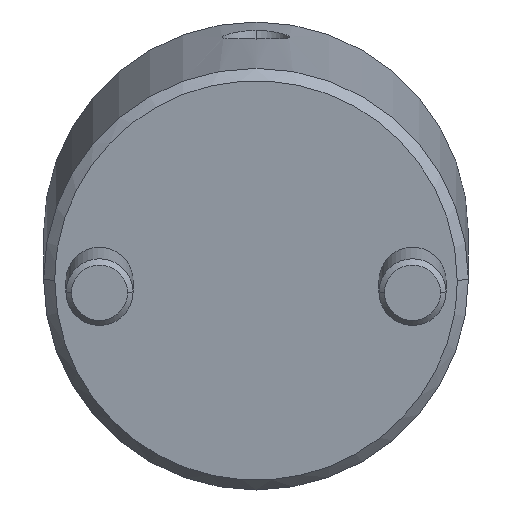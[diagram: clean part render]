
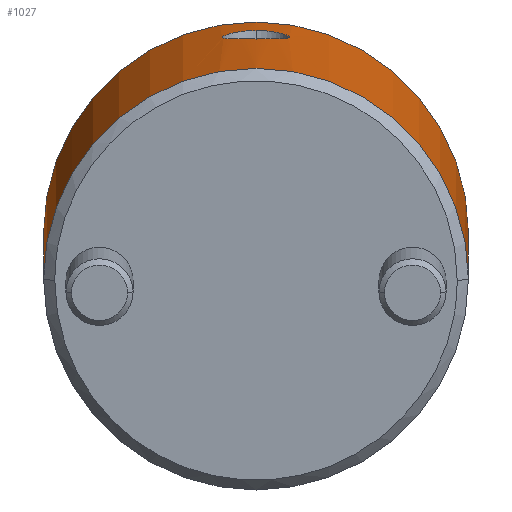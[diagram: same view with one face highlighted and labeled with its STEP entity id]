
A CAD part, front view. The second image highlights one B-rep face of the part: STEP entity #1027.
In plain terms, the highlighted cylindrical face has radius 19 mm (diameter 38 mm), a partial arc.
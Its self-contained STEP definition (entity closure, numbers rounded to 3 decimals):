
#763=CARTESIAN_POINT('Vertex',(0.,19.,1.)) ;
#766=CARTESIAN_POINT('Axis2P3D Location',(0.,0.,1.)) ;
#770=CARTESIAN_POINT('Vertex',(0.,-19.,1.)) ;
#922=CARTESIAN_POINT('Axis2P3D Location',(0.,0.,-1.8)) ;
#927=CARTESIAN_POINT('Line Origine',(0.,19.,-1.8)) ;
#931=CARTESIAN_POINT('Vertex',(0.,19.,35.)) ;
#934=CARTESIAN_POINT('Axis2P3D Location',(0.,0.,35.)) ;
#938=CARTESIAN_POINT('Vertex',(0.,-19.,35.)) ;
#941=CARTESIAN_POINT('Line Origine',(0.,-19.,-1.8)) ;
#953=CARTESIAN_POINT('Control Point',(19.,0.,28.749)) ;
#954=CARTESIAN_POINT('Control Point',(19.,0.083,28.749)) ;
#955=CARTESIAN_POINT('Control Point',(19.,0.165,28.746)) ;
#956=CARTESIAN_POINT('Control Point',(18.999,0.248,28.74)) ;
#957=CARTESIAN_POINT('Control Point',(18.995,0.495,28.714)) ;
#958=CARTESIAN_POINT('Control Point',(18.987,0.739,28.661)) ;
#959=CARTESIAN_POINT('Control Point',(18.979,0.904,28.613)) ;
#960=CARTESIAN_POINT('Control Point',(18.962,1.22,28.496)) ;
#961=CARTESIAN_POINT('Control Point',(18.94,1.514,28.337)) ;
#962=CARTESIAN_POINT('Control Point',(18.928,1.657,28.245)) ;
#963=CARTESIAN_POINT('Control Point',(18.903,1.931,28.043)) ;
#964=CARTESIAN_POINT('Control Point',(18.876,2.173,27.806)) ;
#965=CARTESIAN_POINT('Control Point',(18.862,2.286,27.678)) ;
#966=CARTESIAN_POINT('Control Point',(18.836,2.494,27.407)) ;
#967=CARTESIAN_POINT('Control Point',(18.813,2.664,27.109)) ;
#968=CARTESIAN_POINT('Control Point',(18.802,2.738,26.955)) ;
#969=CARTESIAN_POINT('Control Point',(18.783,2.864,26.639)) ;
#970=CARTESIAN_POINT('Control Point',(18.77,2.946,26.305)) ;
#971=CARTESIAN_POINT('Control Point',(18.766,2.976,26.134)) ;
#972=CARTESIAN_POINT('Control Point',(18.76,3.011,25.795)) ;
#973=CARTESIAN_POINT('Control Point',(18.762,2.998,25.456)) ;
#974=CARTESIAN_POINT('Control Point',(18.765,2.979,25.287)) ;
#975=CARTESIAN_POINT('Control Point',(18.777,2.904,24.869)) ;
#976=CARTESIAN_POINT('Control Point',(18.799,2.759,24.473)) ;
#977=CARTESIAN_POINT('Control Point',(18.816,2.645,24.245)) ;
#978=CARTESIAN_POINT('Control Point',(18.859,2.328,23.745)) ;
#979=CARTESIAN_POINT('Control Point',(18.907,1.9,23.338)) ;
#980=CARTESIAN_POINT('Control Point',(18.934,1.62,23.139)) ;
#981=CARTESIAN_POINT('Control Point',(18.971,1.134,22.89)) ;
#982=CARTESIAN_POINT('Control Point',(18.992,0.605,22.755)) ;
#983=CARTESIAN_POINT('Control Point',(18.997,0.404,22.72)) ;
#984=CARTESIAN_POINT('Control Point',(19.,0.203,22.704)) ;
#985=CARTESIAN_POINT('Control Point',(19.,0.,22.704)) ;
#986=CARTESIAN_POINT('Vertex',(19.,0.,28.749)) ;
#988=CARTESIAN_POINT('Vertex',(19.,0.,22.704)) ;
#992=CARTESIAN_POINT('Control Point',(19.,0.,22.704)) ;
#993=CARTESIAN_POINT('Control Point',(19.,-0.168,22.704)) ;
#994=CARTESIAN_POINT('Control Point',(18.998,-0.336,22.715)) ;
#995=CARTESIAN_POINT('Control Point',(18.994,-0.503,22.739)) ;
#996=CARTESIAN_POINT('Control Point',(18.983,-0.835,22.809)) ;
#997=CARTESIAN_POINT('Control Point',(18.966,-1.155,22.925)) ;
#998=CARTESIAN_POINT('Control Point',(18.956,-1.309,22.993)) ;
#999=CARTESIAN_POINT('Control Point',(18.933,-1.607,23.152)) ;
#1000=CARTESIAN_POINT('Control Point',(18.907,-1.881,23.351)) ;
#1001=CARTESIAN_POINT('Control Point',(18.894,-2.01,23.46)) ;
#1002=CARTESIAN_POINT('Control Point',(18.867,-2.252,23.694)) ;
#1003=CARTESIAN_POINT('Control Point',(18.841,-2.457,23.961)) ;
#1004=CARTESIAN_POINT('Control Point',(18.828,-2.551,24.102)) ;
#1005=CARTESIAN_POINT('Control Point',(18.799,-2.759,24.466)) ;
#1006=CARTESIAN_POINT('Control Point',(18.778,-2.9,24.863)) ;
#1007=CARTESIAN_POINT('Control Point',(18.768,-2.959,25.114)) ;
#1008=CARTESIAN_POINT('Control Point',(18.759,-3.015,25.535)) ;
#1009=CARTESIAN_POINT('Control Point',(18.762,-2.996,25.959)) ;
#1010=CARTESIAN_POINT('Control Point',(18.765,-2.976,26.13)) ;
#1011=CARTESIAN_POINT('Control Point',(18.778,-2.898,26.553)) ;
#1012=CARTESIAN_POINT('Control Point',(18.801,-2.748,26.955)) ;
#1013=CARTESIAN_POINT('Control Point',(18.817,-2.632,27.187)) ;
#1014=CARTESIAN_POINT('Control Point',(18.861,-2.311,27.694)) ;
#1015=CARTESIAN_POINT('Control Point',(18.909,-1.881,28.106)) ;
#1016=CARTESIAN_POINT('Control Point',(18.936,-1.604,28.308)) ;
#1017=CARTESIAN_POINT('Control Point',(18.971,-1.123,28.56)) ;
#1018=CARTESIAN_POINT('Control Point',(18.992,-0.597,28.698)) ;
#1019=CARTESIAN_POINT('Control Point',(18.997,-0.399,28.732)) ;
#1020=CARTESIAN_POINT('Control Point',(19.,-0.2,28.749)) ;
#1021=CARTESIAN_POINT('Control Point',(19.,0.,28.749)) ;
#767=DIRECTION('Axis2P3D Direction',(0.,0.,1.)) ;
#923=DIRECTION('Axis2P3D Direction',(0.,-0.,1.)) ;
#924=DIRECTION('Axis2P3D XDirection',(0.,-1.,0.)) ;
#928=DIRECTION('Vector Direction',(0.,0.,1.)) ;
#935=DIRECTION('Axis2P3D Direction',(0.,-0.,1.)) ;
#942=DIRECTION('Vector Direction',(0.,0.,1.)) ;
#768=AXIS2_PLACEMENT_3D('Circle Axis2P3D',#766,#767,$) ;
#925=AXIS2_PLACEMENT_3D('Cylinder Axis2P3D',#922,#923,#924) ;
#936=AXIS2_PLACEMENT_3D('Circle Axis2P3D',#934,#935,$) ;
#947=ORIENTED_EDGE('',*,*,#933,.F.) ;
#948=ORIENTED_EDGE('',*,*,#940,.T.) ;
#949=ORIENTED_EDGE('',*,*,#945,.T.) ;
#950=ORIENTED_EDGE('',*,*,#772,.F.) ;
#1024=ORIENTED_EDGE('',*,*,#990,.T.) ;
#1025=ORIENTED_EDGE('',*,*,#1022,.T.) ;
#1026=FACE_BOUND('',#1023,.T.) ;
#929=VECTOR('Line Direction',#928,1.) ;
#943=VECTOR('Line Direction',#942,1.) ;
#1027=ADVANCED_FACE('MANIFOLD_SOLID_BREP #1116',(#951,#1026),#926,.T.) ;
#952=B_SPLINE_CURVE_WITH_KNOTS('',5,(#953,#954,#955,#956,#957,#958,#959,#960,#961,#962,#963,#964,#965,#966,#967,#968,#969,#970,#971,#972,#973,#974,#975,#976,#977,#978,#979,#980,#981,#982,#983,#984,#985),.UNSPECIFIED.,.F.,.U.,(6,3,3,3,3,3,3,3,3,3,6),(0.,0.591,1.779,2.983,4.199,5.399,6.591,7.777,9.567,11.962,13.402),.UNSPECIFIED.) ;
#991=B_SPLINE_CURVE_WITH_KNOTS('',5,(#992,#993,#994,#995,#996,#997,#998,#999,#1000,#1001,#1002,#1003,#1004,#1005,#1006,#1007,#1008,#1009,#1010,#1011,#1012,#1013,#1014,#1015,#1016,#1017,#1018,#1019,#1020,#1021),.UNSPECIFIED.,.F.,.U.,(6,3,3,3,3,3,3,3,3,6),(0.,1.203,2.402,3.608,4.808,6.587,7.776,9.58,11.983,13.405),.UNSPECIFIED.) ;
#769=CIRCLE('generated circle',#768,19.) ;
#937=CIRCLE('generated circle',#936,19.) ;
#926=CYLINDRICAL_SURFACE('generated cylinder',#925,19.) ;
#772=EDGE_CURVE('',#764,#771,#769,.F.) ;
#933=EDGE_CURVE('',#932,#764,#930,.F.) ;
#940=EDGE_CURVE('',#932,#939,#937,.F.) ;
#945=EDGE_CURVE('',#939,#771,#944,.F.) ;
#990=EDGE_CURVE('',#987,#989,#952,.T.) ;
#1022=EDGE_CURVE('',#989,#987,#991,.T.) ;
#946=EDGE_LOOP('',(#947,#948,#949,#950)) ;
#1023=EDGE_LOOP('',(#1024,#1025)) ;
#951=FACE_OUTER_BOUND('',#946,.T.) ;
#930=LINE('Line',#927,#929) ;
#944=LINE('Line',#941,#943) ;
#764=VERTEX_POINT('',#763) ;
#771=VERTEX_POINT('',#770) ;
#932=VERTEX_POINT('',#931) ;
#939=VERTEX_POINT('',#938) ;
#987=VERTEX_POINT('',#986) ;
#989=VERTEX_POINT('',#988) ;
